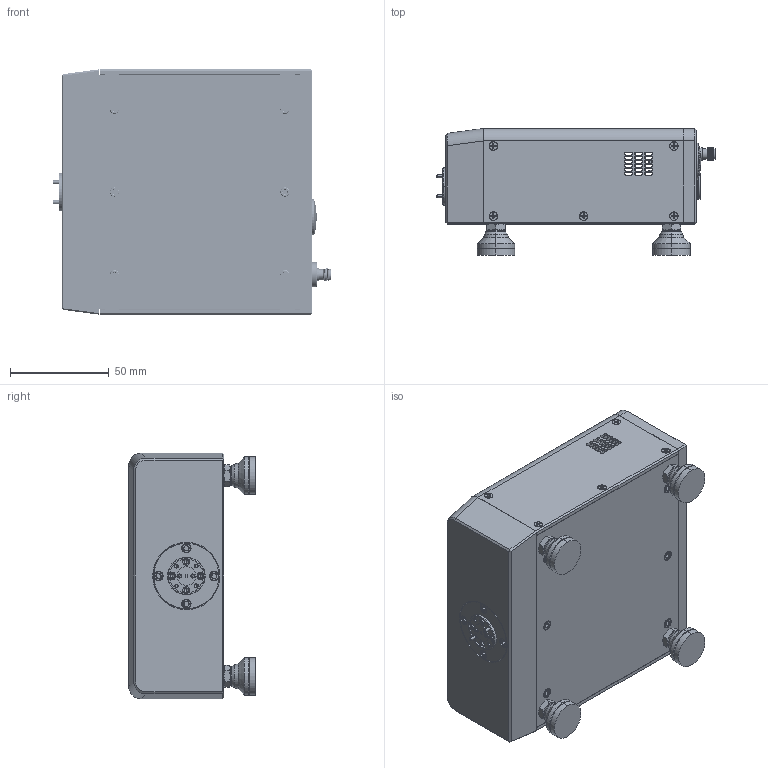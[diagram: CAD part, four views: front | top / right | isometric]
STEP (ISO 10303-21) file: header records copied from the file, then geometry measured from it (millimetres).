
FILE_DESCRIPTION (( 'STEP AP214' ), '1' );
FILE_NAME ('TE-D-A-2.STEP', '2025-01-09T21:33:56', ( '' ), ( '' ), 'SwSTEP 2.0', 'SolidWorks 2021', '' );
FILE_SCHEMA (( 'AUTOMOTIVE_DESIGN' ));
Length unit declared in the file: inch
Products named in the file (1): TE-D-A-2
Bounding box: 141.1 x 64.14 x 124.32 mm (x, y, z)
Volume: 293754.4 mm3; surface area: 145651.3 mm2
Topology: 50 solids, 50 shells, 2762 faces, 7184 edges, 4510 vertices
Faces by surface type: cylinder 1116, plane 992, cone 531, bspline 76, torus 28, sphere 19
Entity records: 149376 total; most frequent: CARTESIAN_POINT 48343, ORIENTED_EDGE 13968, DIRECTION 12871, EDGE_CURVE 6984, AXIS2_PLACEMENT_3D 4850, VERTEX_POINT 4483, LINE 3171, VECTOR 3171
